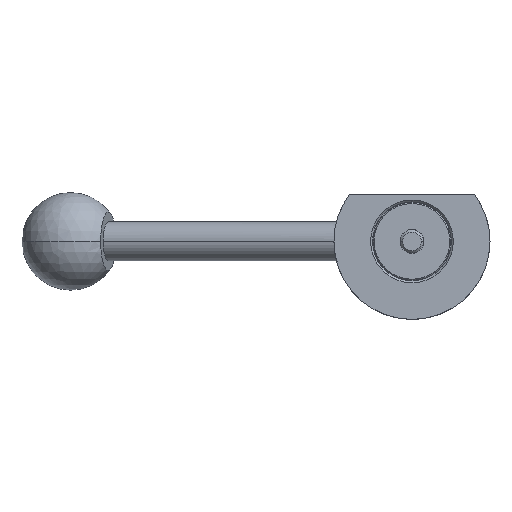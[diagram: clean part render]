
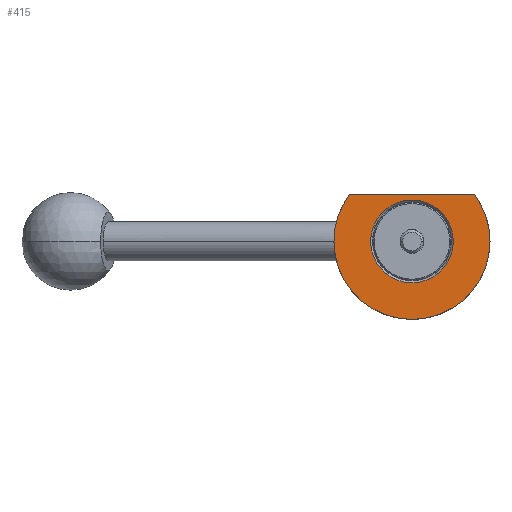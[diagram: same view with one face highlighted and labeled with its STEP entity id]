
A CAD part, front view. The second image highlights one B-rep face of the part: STEP entity #415.
In plain terms, the highlighted planar face has unit normal (0, -1, 0).
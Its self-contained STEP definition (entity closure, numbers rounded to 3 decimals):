
#14 = AXIS2_PLACEMENT_3D ( 'NONE', #233, #376, #1328 ) ;
#46 = DIRECTION ( 'NONE',  ( 0., 1., 0. ) ) ;
#59 = VERTEX_POINT ( 'NONE', #1516 ) ;
#70 = AXIS2_PLACEMENT_3D ( 'NONE', #381, #1655, #844 ) ;
#73 = CARTESIAN_POINT ( 'NONE',  ( 0., -10., 0. ) ) ;
#89 = DIRECTION ( 'NONE',  ( 0., 1., 0. ) ) ;
#100 = FACE_BOUND ( 'NONE', #1329, .T. ) ;
#129 = DIRECTION ( 'NONE',  ( 0., 1., 0. ) ) ;
#140 = AXIS2_PLACEMENT_3D ( 'NONE', #1345, #89, #1018 ) ;
#199 = AXIS2_PLACEMENT_3D ( 'NONE', #73, #46, #666 ) ;
#221 = EDGE_CURVE ( 'NONE', #311, #1066, #653, .T. ) ;
#225 = CARTESIAN_POINT ( 'NONE',  ( -10.6, -10., 0. ) ) ;
#229 = ORIENTED_EDGE ( 'NONE', *, *, #773, .F. ) ;
#233 = CARTESIAN_POINT ( 'NONE',  ( 0., -10., 0. ) ) ;
#284 = EDGE_CURVE ( 'NONE', #59, #1256, #1183, .T. ) ;
#311 = VERTEX_POINT ( 'NONE', #1426 ) ;
#374 = VECTOR ( 'NONE', #1200, 1000. ) ;
#376 = DIRECTION ( 'NONE',  ( 0., 1., 0. ) ) ;
#381 = CARTESIAN_POINT ( 'NONE',  ( -10.6, -10., 0. ) ) ;
#415 = ADVANCED_FACE ( 'NONE', ( #100, #1019 ), #857, .T. ) ;
#526 = AXIS2_PLACEMENT_3D ( 'NONE', #1307, #1011, #534 ) ;
#534 = DIRECTION ( 'NONE',  ( -1., 0., 0. ) ) ;
#653 = CIRCLE ( 'NONE', #199, 20. ) ;
#666 = DIRECTION ( 'NONE',  ( -1., 0., 0. ) ) ;
#668 = ORIENTED_EDGE ( 'NONE', *, *, #1829, .T. ) ;
#735 = CARTESIAN_POINT ( 'NONE',  ( -16.001, -10., 11.999 ) ) ;
#740 = ORIENTED_EDGE ( 'NONE', *, *, #221, .F. ) ;
#773 = EDGE_CURVE ( 'NONE', #1066, #1166, #1937, .T. ) ;
#844 = DIRECTION ( 'NONE',  ( 1., 0., 0. ) ) ;
#857 = PLANE ( 'NONE',  #70 ) ;
#921 = CIRCLE ( 'NONE', #14, 10.6 ) ;
#974 = CARTESIAN_POINT ( 'NONE',  ( 20., -10., 0. ) ) ;
#987 = AXIS2_PLACEMENT_3D ( 'NONE', #1765, #129, #1065 ) ;
#1011 = DIRECTION ( 'NONE',  ( 0., 1., 0. ) ) ;
#1018 = DIRECTION ( 'NONE',  ( -1., 0., 0. ) ) ;
#1019 = FACE_OUTER_BOUND ( 'NONE', #1259, .T. ) ;
#1065 = DIRECTION ( 'NONE',  ( -1., 0., 0. ) ) ;
#1066 = VERTEX_POINT ( 'NONE', #974 ) ;
#1136 = ORIENTED_EDGE ( 'NONE', *, *, #1681, .T. ) ;
#1166 = VERTEX_POINT ( 'NONE', #1591 ) ;
#1183 = CIRCLE ( 'NONE', #526, 10.6 ) ;
#1200 = DIRECTION ( 'NONE',  ( -1., 0., 0. ) ) ;
#1256 = VERTEX_POINT ( 'NONE', #225 ) ;
#1259 = EDGE_LOOP ( 'NONE', ( #740, #668, #1464, #229 ) ) ;
#1307 = CARTESIAN_POINT ( 'NONE',  ( 0., -10., 0. ) ) ;
#1328 = DIRECTION ( 'NONE',  ( -1., 0., 0. ) ) ;
#1329 = EDGE_LOOP ( 'NONE', ( #1912, #1136 ) ) ;
#1345 = CARTESIAN_POINT ( 'NONE',  ( 0., -10., 0. ) ) ;
#1349 = EDGE_CURVE ( 'NONE', #1166, #1415, #2005, .T. ) ;
#1351 = CARTESIAN_POINT ( 'NONE',  ( -10.6, -10., 11.999 ) ) ;
#1415 = VERTEX_POINT ( 'NONE', #735 ) ;
#1426 = CARTESIAN_POINT ( 'NONE',  ( 16.001, -10., 11.999 ) ) ;
#1464 = ORIENTED_EDGE ( 'NONE', *, *, #1349, .F. ) ;
#1516 = CARTESIAN_POINT ( 'NONE',  ( 10.6, -10., 0. ) ) ;
#1591 = CARTESIAN_POINT ( 'NONE',  ( -20., -10., 0. ) ) ;
#1655 = DIRECTION ( 'NONE',  ( 0., -1., 0. ) ) ;
#1681 = EDGE_CURVE ( 'NONE', #1256, #59, #921, .T. ) ;
#1765 = CARTESIAN_POINT ( 'NONE',  ( 0., -10., 0. ) ) ;
#1829 = EDGE_CURVE ( 'NONE', #311, #1415, #1979, .T. ) ;
#1912 = ORIENTED_EDGE ( 'NONE', *, *, #284, .T. ) ;
#1937 = CIRCLE ( 'NONE', #140, 20. ) ;
#1979 = LINE ( 'NONE', #1351, #374 ) ;
#2005 = CIRCLE ( 'NONE', #987, 20. ) ;
